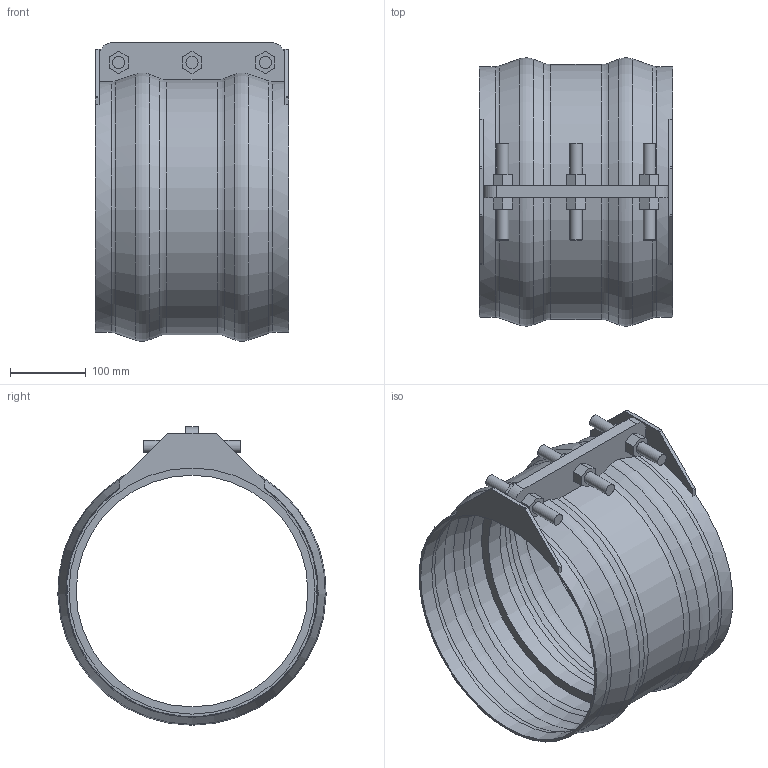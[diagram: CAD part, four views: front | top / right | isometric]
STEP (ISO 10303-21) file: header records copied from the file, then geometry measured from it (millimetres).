
FILE_DESCRIPTION(/* description */ ('VIC SS NON RESTRAINED COUPLING STYLE 229S (FLEX) (BEF)','CAx-IF Rec.Pracs.---Representation and Presentation of Product Manufacturing Information (PMI)---4.0---2014-10-13'),/* implementation_level */ '2;1');
FILE_NAME(/* name */ 'C:\Users\Vjadhav\Desktop\CAD for Inventor\1\229S\STEP\Victaulic_VBSP_Coupling Flexible Non-Restrained_Style 229S (BEF)\Victaulic_VBSP_Coupling Flexible Non-Restrained_Style 229S (BEF)_12 (300).stp',/* time_stamp */ '2021-08-26T18:16:58+06:00',/* author */ ('Vjadhav'),/* organization */ ('Victaulic'),/* preprocessor_version */ 'ST-DEVELOPER v17.2',/* originating_system */ 'Autodesk Inventor 2019',/* authorisation */ '');
FILE_SCHEMA (('AP242_MANAGED_MODEL_BASED_3D_ENGINEERING_MIM_LF { 1 0 10303 442 1 1 4 }'));
Length unit declared in the file: inch
Products named in the file (1): 229S-12.0
Bounding box: 254 x 353.09 x 392.82 mm (x, y, z)
Volume: 1399964.4 mm3; surface area: 646428.1 mm2
Topology: 1 solids, 1 shells, 111 faces, 301 edges, 206 vertices
Faces by surface type: plane 67, cylinder 24, torus 12, cone 8
Full cylindrical faces by diameter (mm): 15.875 x6, 304.8 x1, 323.85 x2, 330.2 x2
Entity records: 3858 total; most frequent: CARTESIAN_POINT 732, DIRECTION 633, ORIENTED_EDGE 602, EDGE_CURVE 301, AXIS2_PLACEMENT_3D 227, VERTEX_POINT 206, LINE 179, VECTOR 179
